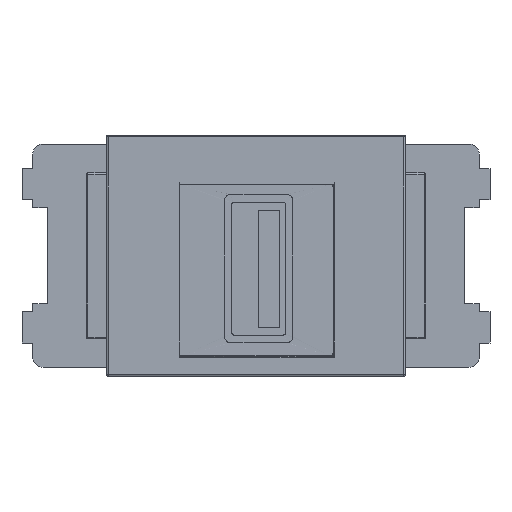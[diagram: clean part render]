
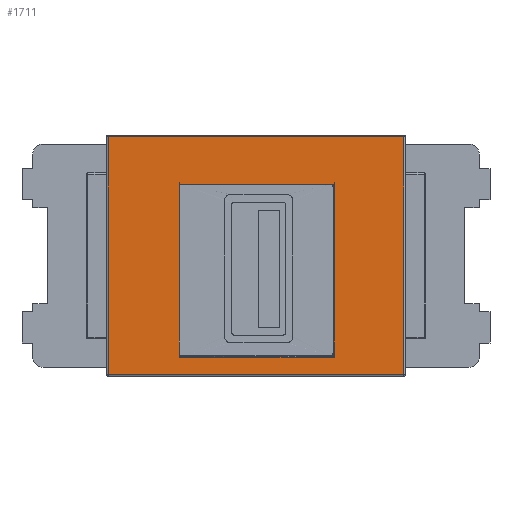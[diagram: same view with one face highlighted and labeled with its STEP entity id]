
A CAD part, front view. The second image highlights one B-rep face of the part: STEP entity #1711.
In plain terms, the highlighted free-form (B-spline) face has degree [1, 1] with [2, 2] control points.
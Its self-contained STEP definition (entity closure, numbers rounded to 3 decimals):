
#466 = VERTEX_POINT('',#467);
#467 = CARTESIAN_POINT('',(13.885,-11.175,10.85));
#537 = VERTEX_POINT('',#538);
#538 = CARTESIAN_POINT('',(-13.885,-11.175,10.85));
#608 = VERTEX_POINT('',#609);
#609 = CARTESIAN_POINT('',(13.885,11.175,10.85));
#689 = EDGE_CURVE('',#608,#466,#690,.T.);
#690 = B_SPLINE_CURVE_WITH_KNOTS('',5,(#691,#692,#693,#694,#695,#696),
  .UNSPECIFIED.,.F.,.F.,(6,6),(0.,22.35),.PIECEWISE_BEZIER_KNOTS.);
#691 = CARTESIAN_POINT('',(13.885,11.175,10.85));
#692 = CARTESIAN_POINT('',(13.885,6.705,10.85));
#693 = CARTESIAN_POINT('',(13.885,2.235,10.85));
#694 = CARTESIAN_POINT('',(13.885,-2.235,10.85));
#695 = CARTESIAN_POINT('',(13.885,-6.705,10.85));
#696 = CARTESIAN_POINT('',(13.885,-11.175,10.85));
#762 = VERTEX_POINT('',#763);
#763 = CARTESIAN_POINT('',(-13.885,11.175,10.85));
#843 = EDGE_CURVE('',#762,#608,#844,.T.);
#844 = B_SPLINE_CURVE_WITH_KNOTS('',5,(#845,#846,#847,#848,#849,#850),
  .UNSPECIFIED.,.F.,.F.,(6,6),(0.,27.77),.PIECEWISE_BEZIER_KNOTS.);
#845 = CARTESIAN_POINT('',(-13.885,11.175,10.85));
#846 = CARTESIAN_POINT('',(-8.331,11.175,10.85));
#847 = CARTESIAN_POINT('',(-2.777,11.175,10.85));
#848 = CARTESIAN_POINT('',(2.777,11.175,10.85));
#849 = CARTESIAN_POINT('',(8.331,11.175,10.85));
#850 = CARTESIAN_POINT('',(13.885,11.175,10.85));
#926 = EDGE_CURVE('',#537,#762,#927,.T.);
#927 = B_SPLINE_CURVE_WITH_KNOTS('',5,(#928,#929,#930,#931,#932,#933),
  .UNSPECIFIED.,.F.,.F.,(6,6),(0.,22.35),.PIECEWISE_BEZIER_KNOTS.);
#928 = CARTESIAN_POINT('',(-13.885,-11.175,10.85));
#929 = CARTESIAN_POINT('',(-13.885,-6.705,10.85));
#930 = CARTESIAN_POINT('',(-13.885,-2.235,10.85));
#931 = CARTESIAN_POINT('',(-13.885,2.235,10.85));
#932 = CARTESIAN_POINT('',(-13.885,6.705,10.85));
#933 = CARTESIAN_POINT('',(-13.885,11.175,10.85));
#1009 = EDGE_CURVE('',#466,#537,#1010,.T.);
#1010 = B_SPLINE_CURVE_WITH_KNOTS('',5,(#1011,#1012,#1013,#1014,#1015,
    #1016),.UNSPECIFIED.,.F.,.F.,(6,6),(0.,27.77),
  .PIECEWISE_BEZIER_KNOTS.);
#1011 = CARTESIAN_POINT('',(13.885,-11.175,10.85));
#1012 = CARTESIAN_POINT('',(8.331,-11.175,10.85));
#1013 = CARTESIAN_POINT('',(2.777,-11.175,10.85));
#1014 = CARTESIAN_POINT('',(-2.777,-11.175,10.85));
#1015 = CARTESIAN_POINT('',(-8.331,-11.175,10.85));
#1016 = CARTESIAN_POINT('',(-13.885,-11.175,10.85));
#1711 = ADVANCED_FACE('',(#1712,#1718),#1764,.F.);
#1712 = FACE_BOUND('',#1713,.F.);
#1713 = EDGE_LOOP('',(#1714,#1715,#1716,#1717));
#1714 = ORIENTED_EDGE('',*,*,#1009,.T.);
#1715 = ORIENTED_EDGE('',*,*,#926,.T.);
#1716 = ORIENTED_EDGE('',*,*,#843,.T.);
#1717 = ORIENTED_EDGE('',*,*,#689,.T.);
#1718 = FACE_BOUND('',#1719,.F.);
#1719 = EDGE_LOOP('',(#1720,#1733,#1744,#1755));
#1720 = ORIENTED_EDGE('',*,*,#1721,.T.);
#1721 = EDGE_CURVE('',#1722,#1724,#1726,.T.);
#1722 = VERTEX_POINT('',#1723);
#1723 = CARTESIAN_POINT('',(-7.188,-9.51,10.85));
#1724 = VERTEX_POINT('',#1725);
#1725 = CARTESIAN_POINT('',(7.352,-9.51,10.85));
#1726 = B_SPLINE_CURVE_WITH_KNOTS('',5,(#1727,#1728,#1729,#1730,#1731,
    #1732),.UNSPECIFIED.,.F.,.F.,(6,6),(0.,14.54),
  .PIECEWISE_BEZIER_KNOTS.);
#1727 = CARTESIAN_POINT('',(-7.188,-9.51,10.85));
#1728 = CARTESIAN_POINT('',(-4.28,-9.51,10.85));
#1729 = CARTESIAN_POINT('',(-1.372,-9.51,10.85));
#1730 = CARTESIAN_POINT('',(1.536,-9.51,10.85));
#1731 = CARTESIAN_POINT('',(4.444,-9.51,10.85));
#1732 = CARTESIAN_POINT('',(7.352,-9.51,10.85));
#1733 = ORIENTED_EDGE('',*,*,#1734,.T.);
#1734 = EDGE_CURVE('',#1724,#1735,#1737,.T.);
#1735 = VERTEX_POINT('',#1736);
#1736 = CARTESIAN_POINT('',(7.352,6.71,10.85));
#1737 = B_SPLINE_CURVE_WITH_KNOTS('',5,(#1738,#1739,#1740,#1741,#1742,
    #1743),.UNSPECIFIED.,.F.,.F.,(6,6),(0.,16.22),
  .PIECEWISE_BEZIER_KNOTS.);
#1738 = CARTESIAN_POINT('',(7.352,-9.51,10.85));
#1739 = CARTESIAN_POINT('',(7.352,-6.266,10.85));
#1740 = CARTESIAN_POINT('',(7.352,-3.022,10.85));
#1741 = CARTESIAN_POINT('',(7.352,0.222,10.85));
#1742 = CARTESIAN_POINT('',(7.352,3.466,10.85));
#1743 = CARTESIAN_POINT('',(7.352,6.71,10.85));
#1744 = ORIENTED_EDGE('',*,*,#1745,.T.);
#1745 = EDGE_CURVE('',#1735,#1746,#1748,.T.);
#1746 = VERTEX_POINT('',#1747);
#1747 = CARTESIAN_POINT('',(-7.188,6.71,10.85));
#1748 = B_SPLINE_CURVE_WITH_KNOTS('',5,(#1749,#1750,#1751,#1752,#1753,
    #1754),.UNSPECIFIED.,.F.,.F.,(6,6),(0.,14.54),
  .PIECEWISE_BEZIER_KNOTS.);
#1749 = CARTESIAN_POINT('',(7.352,6.71,10.85));
#1750 = CARTESIAN_POINT('',(4.444,6.71,10.85));
#1751 = CARTESIAN_POINT('',(1.536,6.71,10.85));
#1752 = CARTESIAN_POINT('',(-1.372,6.71,10.85));
#1753 = CARTESIAN_POINT('',(-4.28,6.71,10.85));
#1754 = CARTESIAN_POINT('',(-7.188,6.71,10.85));
#1755 = ORIENTED_EDGE('',*,*,#1756,.T.);
#1756 = EDGE_CURVE('',#1746,#1722,#1757,.T.);
#1757 = B_SPLINE_CURVE_WITH_KNOTS('',5,(#1758,#1759,#1760,#1761,#1762,
    #1763),.UNSPECIFIED.,.F.,.F.,(6,6),(0.,16.22),
  .PIECEWISE_BEZIER_KNOTS.);
#1758 = CARTESIAN_POINT('',(-7.188,6.71,10.85));
#1759 = CARTESIAN_POINT('',(-7.188,3.466,10.85));
#1760 = CARTESIAN_POINT('',(-7.188,0.222,10.85));
#1761 = CARTESIAN_POINT('',(-7.188,-3.022,10.85));
#1762 = CARTESIAN_POINT('',(-7.188,-6.266,10.85));
#1763 = CARTESIAN_POINT('',(-7.188,-9.51,10.85));
#1764 = B_SPLINE_SURFACE_WITH_KNOTS('',1,1,(
    (#1765,#1766)
    ,(#1767,#1768
    )),.UNSPECIFIED.,.F.,.F.,.F.,(2,2),(2,2),(0.,1.243),(0.,1.)
  ,.PIECEWISE_BEZIER_KNOTS.);
#1765 = CARTESIAN_POINT('',(-13.885,11.175,10.85));
#1766 = CARTESIAN_POINT('',(-13.885,-11.175,10.85));
#1767 = CARTESIAN_POINT('',(13.885,11.175,10.85));
#1768 = CARTESIAN_POINT('',(13.885,-11.175,10.85));
